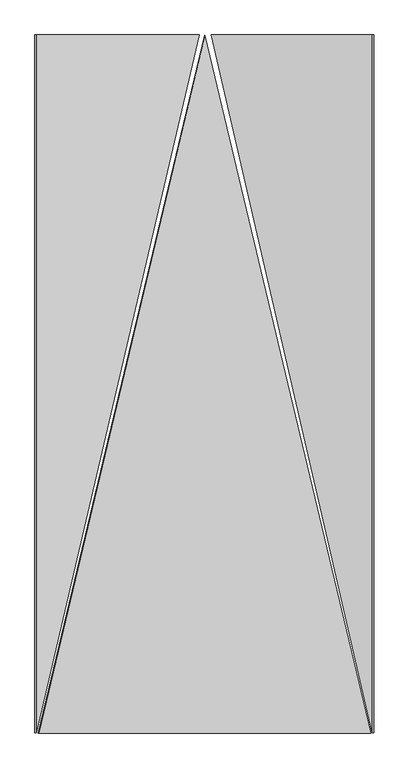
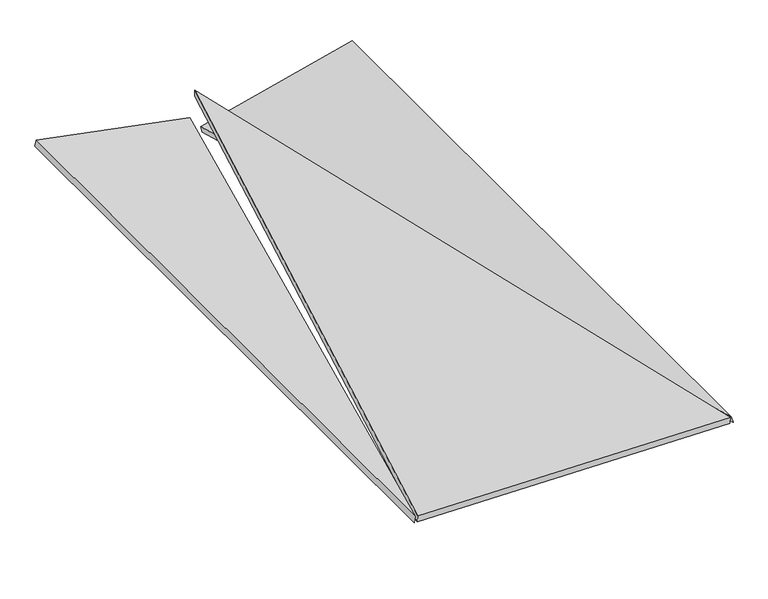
"""IFC4 building model written with IfcOpenShell, lengths in millimetres: proxy geometry, panel sufitowy 6 : panel sufitowy 6."""

import ifcopenshell
import ifcopenshell.guid

model = None  # the IFC model being written
_history = None  # IfcOwnerHistory: only IFC2X3 demands one
_inside = {}  # id of a spatial element -> (the spatial element, [elements in it])
_under = {}  # id of a project, library or spatial element -> (it, [spatial elements below it])
_declared = {}  # id of a project -> (the project, [libraries it declares])
_typed = {}  # id of a type object -> (the type object, [elements of that type])
_made_of = {}  # id of a material, layer set ... -> (it, [elements and type objects made of it])


def new_model(schema):
    """Start an empty IFC model of exactly this schema.

    Asked for "IFC4X3", IfcOpenShell would pick the latest addendum, in which some entities
    have other attributes; the version numbers below select the first issue.
    IFC2X3 requires an IfcOwnerHistory on every rooted entity: one is made here for all.
    """
    global model, _history
    if schema == "IFC4X3":
        model = ifcopenshell.file(schema_version=(4, 3, 0, 0))
    else:
        model = ifcopenshell.file(schema=schema)
    _inside.clear()
    _under.clear()
    _declared.clear()
    _typed.clear()
    _made_of.clear()
    _history = None
    if model.schema == "IFC2X3":
        org = make("IfcOrganization", Name="unknown")
        user = make(
            "IfcPersonAndOrganization",
            ThePerson=make("IfcPerson", FamilyName="unknown"),
            TheOrganization=org,
        )
        app = make(
            "IfcApplication",
            ApplicationDeveloper=org,
            Version="unknown",
            ApplicationFullName="unknown",
            ApplicationIdentifier="unknown",
        )
        _history = make(
            "IfcOwnerHistory",
            OwningUser=user,
            OwningApplication=app,
            ChangeAction="ADDED",
            CreationDate=0,
        )
    return model


def make(cls, **values):
    """One entity of the class cls with the attributes given. An attribute that is None is left unset."""
    return model.create_entity(
        cls, **{name: value for name, value in values.items() if value is not None}
    )


def rooted(cls, **values):
    """An entity with a GlobalId (a new one), such as an element, a storey or a relation."""
    return make(cls, GlobalId=ifcopenshell.guid.new(), OwnerHistory=_history, **values)


def si_unit(unit_type, name, prefix=None):
    """IfcSIUnit, for example si_unit("LENGTHUNIT", "METRE", prefix="MILLI")."""
    return make("IfcSIUnit", UnitType=unit_type, Prefix=prefix, Name=name)


def assignment(units):
    """IfcUnitAssignment: the units of a project."""
    return None if units is None else make("IfcUnitAssignment", Units=units)


def point(xyz):
    """IfcCartesianPoint."""
    return None if xyz is None else make("IfcCartesianPoint", Coordinates=xyz)


def direction(xyz):
    """IfcDirection."""
    return None if xyz is None else make("IfcDirection", DirectionRatios=xyz)


def frame(location, z_axis=None, x_axis=None):
    """IfcAxis2Placement3D, a coordinate frame: its origin and axes. An axis left out is left unset."""
    return make(
        "IfcAxis2Placement3D",
        Location=point(location),
        Axis=direction(z_axis),
        RefDirection=direction(x_axis),
    )


def origin():
    """The frame at (0, 0, 0) with its axes left unset."""
    return frame((0.0, 0.0, 0.0))


def place(relative_to, where):
    """IfcLocalPlacement: puts the frame where relative to a parent placement (None: the world)."""
    return make(
        "IfcLocalPlacement", PlacementRelTo=relative_to, RelativePlacement=where
    )


def context(
    kind, dimensions, precision=None, world=None, true_north=None, identifier=None
):
    """IfcGeometricRepresentationContext, for example the 3D "Model" context."""
    return make(
        "IfcGeometricRepresentationContext",
        ContextIdentifier=identifier,
        ContextType=kind,
        CoordinateSpaceDimension=dimensions,
        Precision=precision,
        WorldCoordinateSystem=world,
        TrueNorth=true_north,
    )


def project(units=None, contexts=None):
    """IfcProject with its units and contexts."""
    return rooted(
        "IfcProject",
        Name="project",
        RepresentationContexts=contexts,
        UnitsInContext=assignment(units),
    )


def spatial(cls, under=None, at=None, **own):
    """A site, building, storey or space (cls), placed at a placement, below another one or the project."""
    s = rooted(cls, ObjectPlacement=at, **own)
    if under is not None:
        _under.setdefault(under.id(), (under, []))[1].append(s)
    return s


def polyline(points):
    """IfcPolyline through the points."""
    return make("IfcPolyline", Points=[point(p) for p in points])


def outline(outer, holes=None, kind="AREA"):
    """IfcArbitraryClosedProfileDef: a profile drawn as a closed curve; with holes, ...WithVoids."""
    if holes is None:
        return make("IfcArbitraryClosedProfileDef", ProfileType=kind, OuterCurve=outer)
    return make(
        "IfcArbitraryProfileDefWithVoids",
        ProfileType=kind,
        OuterCurve=outer,
        InnerCurves=holes,
    )


def extrude(swept, where, along, depth):
    """IfcExtrudedAreaSolid: the profile swept, set in the frame where, extruded along a direction by depth."""
    return make(
        "IfcExtrudedAreaSolid",
        SweptArea=swept,
        Position=where,
        ExtrudedDirection=direction(along),
        Depth=depth,
    )


def shape(context_of_items, identifier, shape_type, items):
    """IfcShapeRepresentation: the items that make up one representation, for example the "Body"."""
    return make(
        "IfcShapeRepresentation",
        ContextOfItems=context_of_items,
        RepresentationIdentifier=identifier,
        RepresentationType=shape_type,
        Items=items,
    )


def source(mapping_origin, context_of_items, identifier, shape_type, items):
    """IfcRepresentationMap: a shape defined once, which mapped items show again and again."""
    return make(
        "IfcRepresentationMap",
        MappingOrigin=mapping_origin,
        MappedRepresentation=shape(context_of_items, identifier, shape_type, items),
    )


def transform(
    local_origin,
    x_axis=None,
    y_axis=None,
    z_axis=None,
    scale=None,
    scale2=None,
    scale3=None,
    uniform=True,
):
    """IfcCartesianTransformationOperator3D, or its non-uniform kind. x_axis, y_axis, z_axis: its Axis1, 2, 3."""
    if uniform:
        return make(
            "IfcCartesianTransformationOperator3D",
            Axis1=direction(x_axis),
            Axis2=direction(y_axis),
            LocalOrigin=point(local_origin),
            Scale=scale,
            Axis3=direction(z_axis),
        )
    return make(
        "IfcCartesianTransformationOperator3DnonUniform",
        Axis1=direction(x_axis),
        Axis2=direction(y_axis),
        LocalOrigin=point(local_origin),
        Scale=scale,
        Axis3=direction(z_axis),
        Scale2=scale2,
        Scale3=scale3,
    )


def mapped(mapping_source, mapping_target):
    """IfcMappedItem: shows the shape of a source again, moved by a transform."""
    return make(
        "IfcMappedItem", MappingSource=mapping_source, MappingTarget=mapping_target
    )


def made_of(thing, what):
    """Note that an element or type object is made of a material, layer set ...; save() writes the relation."""
    if what is not None:
        _made_of.setdefault(what.id(), (what, []))[1].append(thing)
    return thing


def element(
    cls,
    number,
    at=None,
    inside=None,
    cuts=None,
    type_object=None,
    material=None,
    context=None,
    identifier="Body",
    shape_type=None,
    held_by="IfcProductDefinitionShape",
    body=None,
    shapes=None,
    **own,
):
    """One element of the class cls, such as IfcWall. Its Tag is "e" and its number.

    at: its placement. inside: the storey or other place that contains it. cuts: it is an
    opening in that element (IfcRelVoidsElement). A single representation is given by context,
    identifier, shape_type and body (its items); several are given by shapes. held_by: the class
    of the entity that holds the representations. save() writes the other relations.
    """
    e = rooted(cls, Tag="e%d" % number, ObjectPlacement=at, **own)
    if body is not None:
        shapes = [shape(context, identifier, shape_type, body)]
    if shapes is not None:
        e.Representation = make(held_by, Representations=shapes)
    if inside is not None:
        _inside.setdefault(inside.id(), (inside, []))[1].append(e)
    if cuts is not None:
        rooted(
            "IfcRelVoidsElement", RelatingBuildingElement=cuts, RelatedOpeningElement=e
        )
    if type_object is not None:
        _typed.setdefault(type_object.id(), (type_object, []))[1].append(e)
    return made_of(e, material)


def aggregate(whole, parts):
    """IfcRelAggregates: a whole, such as a stair, and the parts it consists of."""
    return rooted("IfcRelAggregates", RelatingObject=whole, RelatedObjects=parts)


def save(model, path):
    """Write the relations noted so far, then the file.

    IfcRelAggregates (storeys below a building ...), IfcRelContainedInSpatialStructure (elements
    in a storey), IfcRelDefinesByType, IfcRelAssociatesMaterial and IfcRelDeclares: one each for
    every whole, place, type object, material and project.
    """
    for whole, parts in _under.values():
        aggregate(whole, parts)
    for where, things in _inside.values():
        rooted(
            "IfcRelContainedInSpatialStructure",
            RelatedElements=things,
            RelatingStructure=where,
        )
    for kind, things in _typed.values():
        rooted("IfcRelDefinesByType", RelatedObjects=things, RelatingType=kind)
    for what, things in _made_of.values():
        rooted("IfcRelAssociatesMaterial", RelatedObjects=things, RelatingMaterial=what)
    for by, libraries in _declared.values():
        rooted("IfcRelDeclares", RelatingContext=by, RelatedDefinitions=libraries)
    model.write(path)


def generic_models_e1de1ecb(model_context):
    return source(origin(), model_context, "Body", "SweptSolid", [
        extrude(outline(polyline([(-900.9098917, 0.0), (1006.1909889, 962.7191946), (1235.4098448, -1e-07), (-900.9098917, 0.0)])), frame((551.1772544, 1457.4151922, 1175.0389156), z_axis=(0.01745240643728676, 0.0, 0.9998476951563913), x_axis=(-0.2315852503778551, -0.9728062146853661, 0.00404233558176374)), (0.0, 0.0, 1.0), 20.0),
        extrude(outline(polyline([(-127.5, 0.0), (-127.5, -2079.0), (-622.5, 0.0), (-127.5, 0.0)])), frame((1388.1709913, 2335.0, 1193.4335905), z_axis=(-0.24192189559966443, 0.0, 0.9702957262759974), x_axis=(0.9702957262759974, 0.0, 0.24192189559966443)), (0.0, 0.0, 1.0), 20.0),
        extrude(outline(polyline([(-127.5, 0.0), (-622.5, 0.0), (-127.5, 2079.0), (-127.5, 0.0)])), frame((129.4546482, 2335.0, 1204.5436263), z_axis=(0.19080899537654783, 0.0, 0.9816271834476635), x_axis=(-0.9816271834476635, 0.0, 0.19080899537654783)), (0.0, 0.0, 1.0), 20.0),
    ])


if __name__ == "__main__":
    model = new_model("IFC4")
    model_context = context("Model", 3, world=origin())
    ifc_project = project(units=[si_unit("LENGTHUNIT", "METRE", prefix="MILLI")], contexts=[model_context])
    site = spatial("IfcSite", under=ifc_project)
    building = spatial("IfcBuilding", under=site)
    placement = place(None, origin())
    generic_models_shape = generic_models_e1de1ecb(model_context)
    element("IfcBuildingElementProxy", 1, Name="panel sufitowy 6 : panel sufitowy 6", ObjectType="panel sufitowy 6 : panel sufitowy 6", at=placement, inside=building, context=model_context, shape_type="MappedRepresentation", body=[
        mapped(generic_models_shape, transform((0.0, 0.0, 0.0), x_axis=(1.0, 0.0, 0.0), y_axis=(0.0, 1.0, 0.0), z_axis=(0.0, 0.0, 1.0))),
    ])
    save(model, "model.ifc")
